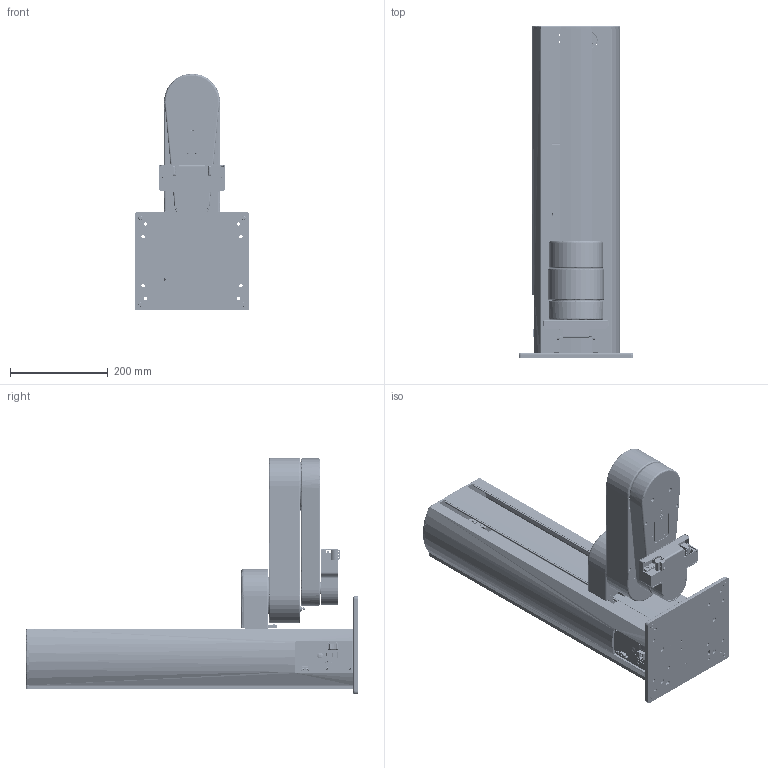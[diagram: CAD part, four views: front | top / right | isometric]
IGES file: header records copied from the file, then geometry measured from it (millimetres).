
Start section: SolidWorks IGES file using analytic representation for surfaces
Global section: file name: C:\Users\paul\Documents\CIMechatronic\OneDrive - Channel Islands Mechatronic\Precise Automation\PF400\ShellEXT ProdC\Assy, Main, ProdC, Precise 400 ShellEXT, PF400.IGS; native system: SolidWorks 2016; preprocessor: SolidWorks 2016; author: paul; date: 161012.091844; units: millimetre
Bounding box: 235.1 x 678.95 x 484 mm (x, y, z)
Surface area: 2076087.2 mm2 (no closed solid volume)
Topology: 0 solids, 0 shells, 10978 faces, 143688 edges, 143481 vertices
Faces by surface type: revolution 5851, bspline 5127
